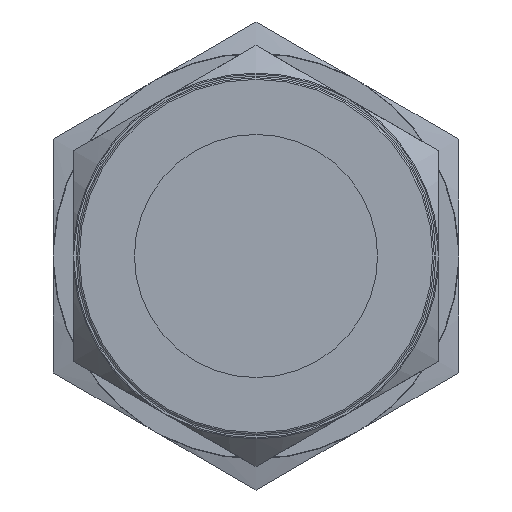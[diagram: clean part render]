
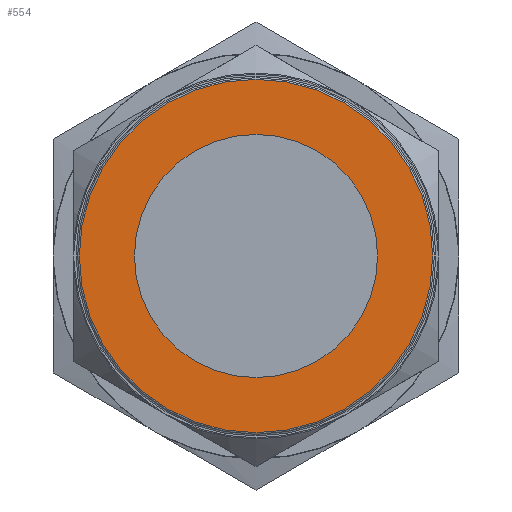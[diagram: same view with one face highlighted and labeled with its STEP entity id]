
A CAD part, left-side view. The second image highlights one B-rep face of the part: STEP entity #554.
In plain terms, the highlighted planar face has unit normal (-1, 0, 0).
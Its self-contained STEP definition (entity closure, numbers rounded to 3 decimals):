
#554 = ADVANCED_FACE( '', ( #1451, #1452 ), #1453, .T. );
#1451 = FACE_BOUND( '', #3050, .T. );
#1452 = FACE_OUTER_BOUND( '', #3051, .T. );
#1453 = PLANE( '', #3052 );
#3050 = EDGE_LOOP( '', ( #7157 ) );
#3051 = EDGE_LOOP( '', ( #7158 ) );
#3052 = AXIS2_PLACEMENT_3D( '', #7159, #7160, #7161 );
#7157 = ORIENTED_EDGE( '', *, *, #10434, .F. );
#7158 = ORIENTED_EDGE( '', *, *, #10538, .T. );
#7159 = CARTESIAN_POINT( '', ( 0., 0., 0. ) );
#7160 = DIRECTION( '', ( -1., 0., 0. ) );
#7161 = DIRECTION( '', ( 0., 0., 1. ) );
#10434 = EDGE_CURVE( '', #11957, #11957, #11958, .T. );
#10538 = EDGE_CURVE( '', #12133, #12133, #12134, .T. );
#11957 = VERTEX_POINT( '', #14527 );
#11958 = CIRCLE( '', #14528, 19.05 );
#12133 = VERTEX_POINT( '', #14849 );
#12134 = CIRCLE( '', #14850, 27.686 );
#14527 = CARTESIAN_POINT( '', ( 0., 0., 19.05 ) );
#14528 = AXIS2_PLACEMENT_3D( '', #19040, #19041, #19042 );
#14849 = CARTESIAN_POINT( '', ( 0., -27.686, 0. ) );
#14850 = AXIS2_PLACEMENT_3D( '', #19145, #19146, #19147 );
#19040 = CARTESIAN_POINT( '', ( 0., 0., 0. ) );
#19041 = DIRECTION( '', ( -1., 0., 0. ) );
#19042 = DIRECTION( '', ( 0., 0., 1. ) );
#19145 = CARTESIAN_POINT( '', ( 0., 0., 0. ) );
#19146 = DIRECTION( '', ( -1., 0., 0. ) );
#19147 = DIRECTION( '', ( 0., -1., 0. ) );
